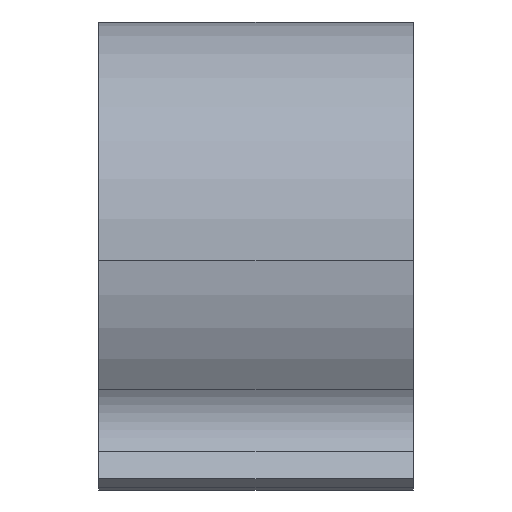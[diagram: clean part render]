
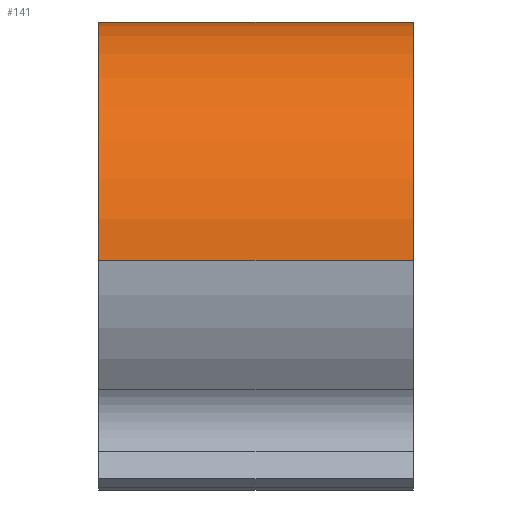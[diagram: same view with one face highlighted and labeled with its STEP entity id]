
A CAD part, top view. The second image highlights one B-rep face of the part: STEP entity #141.
In plain terms, the highlighted cylindrical face has radius 19 mm (diameter 38 mm), a partial arc.
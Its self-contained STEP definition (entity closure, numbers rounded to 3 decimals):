
#6 = CYLINDRICAL_SURFACE ( 'NONE', #738, 19. ) ;
#7 = ORIENTED_EDGE ( 'NONE', *, *, #97, .F. ) ;
#41 = DIRECTION ( 'NONE',  ( 0., 0., -1. ) ) ;
#51 = EDGE_CURVE ( 'NONE', #745, #628, #748, .T. ) ;
#55 = FACE_OUTER_BOUND ( 'NONE', #692, .T. ) ;
#63 = LINE ( 'NONE', #624, #594 ) ;
#97 = EDGE_CURVE ( 'NONE', #687, #561, #63, .T. ) ;
#117 = VECTOR ( 'NONE', #392, 1000. ) ;
#124 = CARTESIAN_POINT ( 'NONE',  ( 12.5, 0., 19. ) ) ;
#141 = ADVANCED_FACE ( 'NONE', ( #55 ), #6, .T. ) ;
#176 = DIRECTION ( 'NONE',  ( 0., 0., 1. ) ) ;
#199 = CARTESIAN_POINT ( 'NONE',  ( 12.5, 19., 0. ) ) ;
#205 = AXIS2_PLACEMENT_3D ( 'NONE', #403, #360, #590 ) ;
#301 = CIRCLE ( 'NONE', #205, 19. ) ;
#307 = EDGE_CURVE ( 'NONE', #561, #628, #301, .T. ) ;
#327 = DIRECTION ( 'NONE',  ( -1., 0., 0. ) ) ;
#346 = DIRECTION ( 'NONE',  ( -1., 0., 0. ) ) ;
#347 = CARTESIAN_POINT ( 'NONE',  ( -12.5, 19., 0. ) ) ;
#360 = DIRECTION ( 'NONE',  ( -1., 0., 0. ) ) ;
#375 = ORIENTED_EDGE ( 'NONE', *, *, #427, .T. ) ;
#392 = DIRECTION ( 'NONE',  ( -1., 0., 0. ) ) ;
#393 = ORIENTED_EDGE ( 'NONE', *, *, #51, .T. ) ;
#403 = CARTESIAN_POINT ( 'NONE',  ( -12.5, 0., 0. ) ) ;
#427 = EDGE_CURVE ( 'NONE', #687, #745, #752, .T. ) ;
#455 = CARTESIAN_POINT ( 'NONE',  ( 12.5, 0., 0. ) ) ;
#520 = DIRECTION ( 'NONE',  ( -1., 0., 0. ) ) ;
#550 = CARTESIAN_POINT ( 'NONE',  ( 12.5, 0., 0. ) ) ;
#561 = VERTEX_POINT ( 'NONE', #751 ) ;
#575 = CARTESIAN_POINT ( 'NONE',  ( 12.5, 19., 0. ) ) ;
#590 = DIRECTION ( 'NONE',  ( 0., 0., -1. ) ) ;
#594 = VECTOR ( 'NONE', #520, 1000. ) ;
#624 = CARTESIAN_POINT ( 'NONE',  ( 12.5, 0., 19. ) ) ;
#628 = VERTEX_POINT ( 'NONE', #347 ) ;
#629 = ORIENTED_EDGE ( 'NONE', *, *, #307, .F. ) ;
#645 = AXIS2_PLACEMENT_3D ( 'NONE', #550, #327, #41 ) ;
#687 = VERTEX_POINT ( 'NONE', #124 ) ;
#692 = EDGE_LOOP ( 'NONE', ( #7, #375, #393, #629 ) ) ;
#738 = AXIS2_PLACEMENT_3D ( 'NONE', #455, #346, #176 ) ;
#745 = VERTEX_POINT ( 'NONE', #199 ) ;
#748 = LINE ( 'NONE', #575, #117 ) ;
#751 = CARTESIAN_POINT ( 'NONE',  ( -12.5, 0., 19. ) ) ;
#752 = CIRCLE ( 'NONE', #645, 19. ) ;
